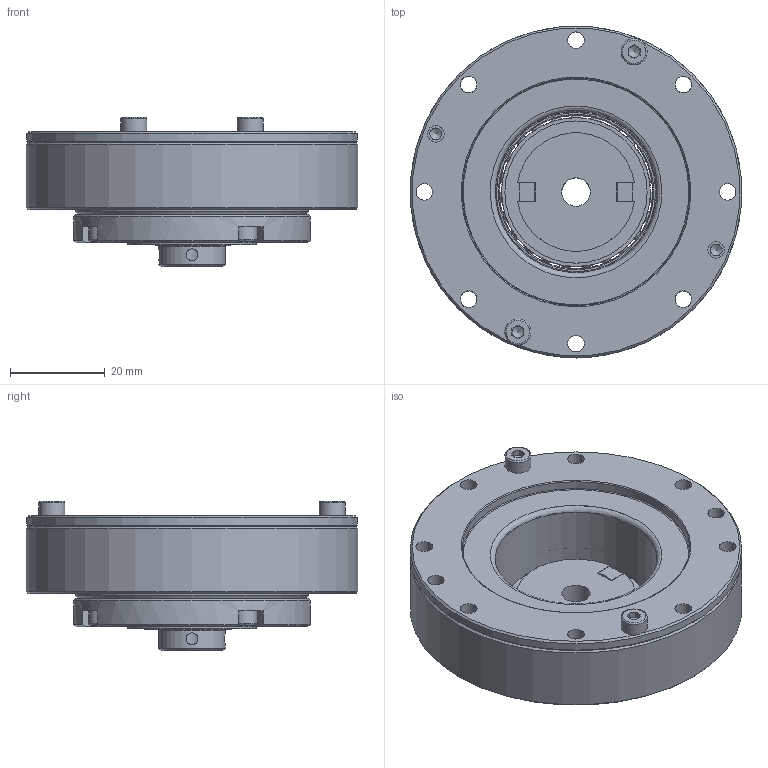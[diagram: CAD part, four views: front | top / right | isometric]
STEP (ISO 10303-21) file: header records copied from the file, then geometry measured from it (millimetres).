
FILE_DESCRIPTION (( 'STEP AP203' ), '1' );
FILE_NAME ('LHS-14-XXX-C-II.STEP', '2025-01-07T05:54:16', ( '' ), ( '' ), 'SwSTEP 2.0', 'SolidWorks 2023', '' );
FILE_SCHEMA (( 'CONFIG_CONTROL_DESIGN' ));
Length unit declared in the file: metre
Products named in the file (1): LHS-14-XXX-C-II
Bounding box: 70 x 70 x 31.5 mm (x, y, z)
Volume: 52733.7 mm3; surface area: 49149.6 mm2
Topology: 43 solids, 43 shells, 543 faces, 1345 edges, 867 vertices
Faces by surface type: plane 247, cylinder 184, cone 58, bspline 54
Full cylindrical faces by diameter (mm): 1.7 x2, 2.5 x22, 3 x7, 3.5 x24, 3.7 x8, 5.5 x7, 6 x1, 13 x1, 14 x2, 14.5 x3, 17.7 x2, 20 x1, 22 x2, 24 x2, 25 x1, 25.07 x1, 26.707 x2, 27 x1, 27.6 x1, 30 x1, 31.4 x1, 32.36 x2, 33.92 x1, 34.088 x1, 34.588 x1, 34.7 x1, 35.499 x1, 38 x2, 38.01 x1, 45.75 x1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
Entity records: 17298 total; most frequent: CARTESIAN_POINT 5652, DIRECTION 2484, ORIENTED_EDGE 2040, AXIS2_PLACEMENT_3D 1046, EDGE_CURVE 1020, EDGE_LOOP 854, VERTEX_POINT 770, FACE_OUTER_BOUND 671
